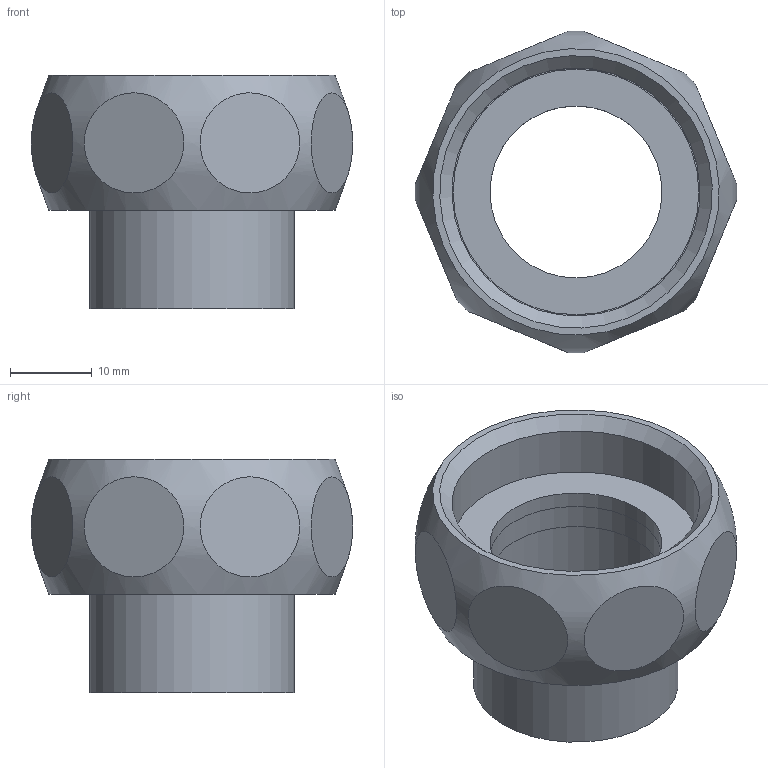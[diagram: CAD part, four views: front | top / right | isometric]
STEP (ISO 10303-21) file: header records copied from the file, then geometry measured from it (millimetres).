
FILE_DESCRIPTION((''),'2;1');
FILE_NAME('G:\SANHA-ESSEN\Entwicklung\Management\Projekte\STEP-Dateien_alle Serien\Serie 4000\4359g\14359221\14359221_(1).stp','2009-03-31T10:30:57',('Lohse'),(''),'Autodesk Inventor 2009','Autodesk Inventor 2009','');
FILE_SCHEMA(('AUTOMOTIVE_DESIGN { 1 0 10303 214 1 1 1 1 }'));
Length unit declared in the file: millimetre
Products named in the file (1): 14359221_(1)2
Bounding box: 39.27 x 39.27 x 28.5 mm (x, y, z)
Volume: 10101 mm3; surface area: 8780.6 mm2
Topology: 3 solids, 3 shells, 27 faces, 42 edges, 31 vertices
Faces by surface type: plane 17, cylinder 8, bspline 1, cone 1
Full cylindrical faces by diameter (mm): 21 x2, 22 x1, 25 x1, 27.5 x1, 29.5 x1, 30 x1, 30.291 x1
Entity records: 1886 total; most frequent: CARTESIAN_POINT 1342, DIRECTION 92, ORIENTED_EDGE 58, EDGE_LOOP 54, AXIS2_PLACEMENT_3D 46, STYLED_ITEM 30, VERTEX_POINT 29, EDGE_CURVE 29
